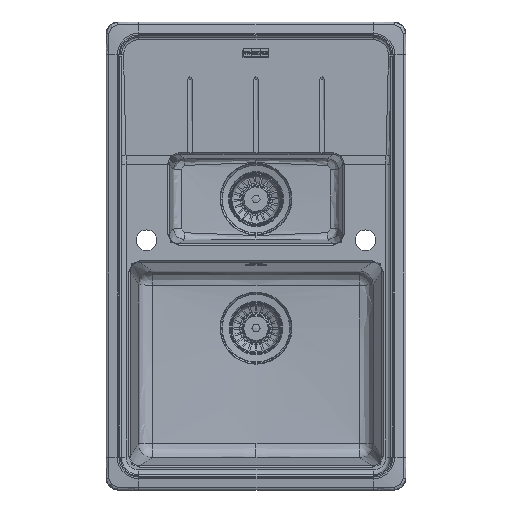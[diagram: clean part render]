
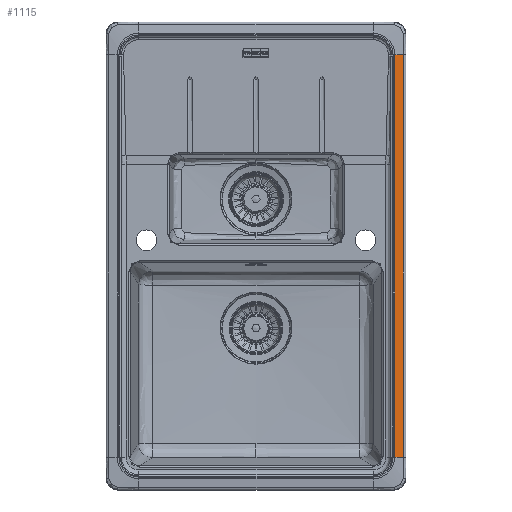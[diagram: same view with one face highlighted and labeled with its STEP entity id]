
A CAD part, top view. The second image highlights one B-rep face of the part: STEP entity #1115.
In plain terms, the highlighted planar face has unit normal (0.102, 0, 0.995).
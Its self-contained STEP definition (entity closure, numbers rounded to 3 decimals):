
#1115=ADVANCED_FACE('',(#4205),#52662,.T.);
#4205=FACE_OUTER_BOUND('',#7345,.T.);
#7345=EDGE_LOOP('',(#14455,#14456,#14457,#14458));
#14455=ORIENTED_EDGE('',*,*,#28789,.F.);
#14456=ORIENTED_EDGE('',*,*,#28851,.T.);
#14457=ORIENTED_EDGE('',*,*,#28887,.T.);
#14458=ORIENTED_EDGE('',*,*,#28849,.F.);
#28789=EDGE_CURVE('',#47517,#47516,#42151,.T.);
#28849=EDGE_CURVE('',#47516,#47541,#42190,.T.);
#28851=EDGE_CURVE('',#47517,#47543,#42192,.T.);
#28887=EDGE_CURVE('',#47543,#47541,#42217,.T.);
#42151=B_SPLINE_CURVE_WITH_KNOTS('',1,(#116879,#116880),.UNSPECIFIED.,.F.,
 .F.,(2,2),(0.,670.11),.UNSPECIFIED.);
#42190=B_SPLINE_CURVE_WITH_KNOTS('',1,(#118105,#118106),.UNSPECIFIED.,.F.,
 .F.,(2,2),(0.,13.946),.UNSPECIFIED.);
#42192=B_SPLINE_CURVE_WITH_KNOTS('',1,(#118109,#118110),.UNSPECIFIED.,.F.,
 .F.,(2,2),(-13.946,0.),.UNSPECIFIED.);
#42217=B_SPLINE_CURVE_WITH_KNOTS('',1,(#118708,#118709),.UNSPECIFIED.,.F.,
 .F.,(2,2),(-670.011,0.),.UNSPECIFIED.);
#47516=VERTEX_POINT('',#105981);
#47517=VERTEX_POINT('',#105982);
#47541=VERTEX_POINT('',#106006);
#47543=VERTEX_POINT('',#106008);
#52662=PLANE('',#56091);
#56091=AXIS2_PLACEMENT_3D('',#93782,#61872,$);
#61872=DIRECTION('',(0.102,0.,0.995));
#93782=CARTESIAN_POINT('',(230.01,402.556,-0.001));
#105981=CARTESIAN_POINT('',(245.394,-335.055,-1.572));
#105982=CARTESIAN_POINT('',(245.394,335.055,-1.572));
#106006=CARTESIAN_POINT('',(231.52,-335.005,-0.155));
#106008=CARTESIAN_POINT('',(231.52,335.005,-0.155));
#116879=CARTESIAN_POINT('',(245.394,335.055,-1.572));
#116880=CARTESIAN_POINT('',(245.394,-335.055,-1.572));
#118105=CARTESIAN_POINT('',(245.394,-335.055,-1.572));
#118106=CARTESIAN_POINT('',(231.52,-335.005,-0.155));
#118109=CARTESIAN_POINT('',(245.394,335.055,-1.572));
#118110=CARTESIAN_POINT('',(231.52,335.005,-0.155));
#118708=CARTESIAN_POINT('',(231.52,335.005,-0.155));
#118709=CARTESIAN_POINT('',(231.52,-335.005,-0.155));
